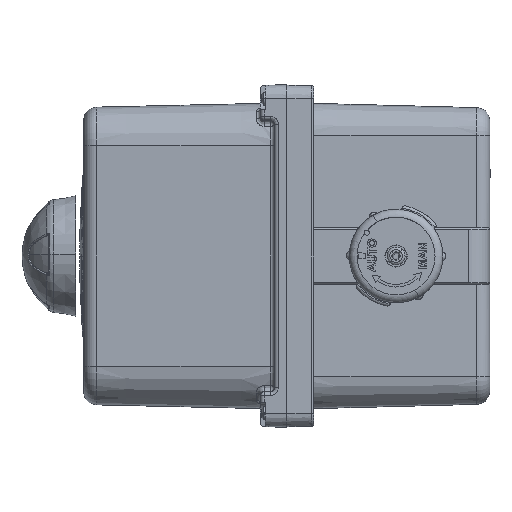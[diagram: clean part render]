
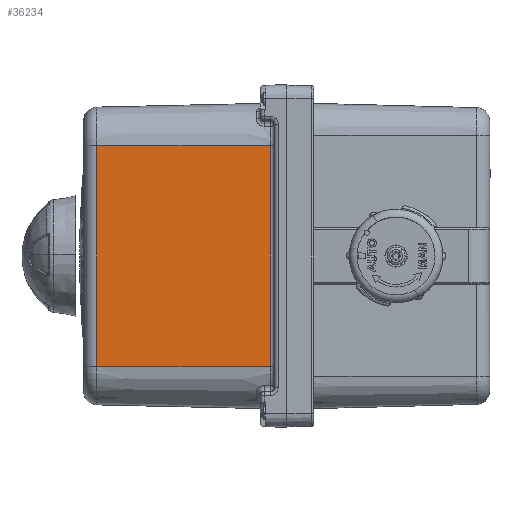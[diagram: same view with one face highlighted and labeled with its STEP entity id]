
A CAD part, left-side view. The second image highlights one B-rep face of the part: STEP entity #36234.
In plain terms, the highlighted planar face has unit normal (-1, 0.023, 0).
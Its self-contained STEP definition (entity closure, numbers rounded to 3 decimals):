
#5148 = CARTESIAN_POINT ( 'NONE',  ( -38.604, 56.592, 157.055 ) ) ;
#6413 = CARTESIAN_POINT ( 'NONE',  ( -38.744, 50.426, 157.055 ) ) ;
#9057 = EDGE_CURVE ( 'NONE', #13628, #29952, #17560, .T. ) ;
#9201 = CARTESIAN_POINT ( 'NONE',  ( -37.13, 121.539, 239.555 ) ) ;
#13628 = VERTEX_POINT ( 'NONE', #9201 ) ;
#17560 = LINE ( 'NONE', #25138, #130940 ) ;
#18841 = ORIENTED_EDGE ( 'NONE', *, *, #88327, .T. ) ;
#25138 = CARTESIAN_POINT ( 'NONE',  ( -38.744, 50.426, 239.555 ) ) ;
#28196 = CARTESIAN_POINT ( 'NONE',  ( -37.13, 121.539, 157.055 ) ) ;
#29952 = VERTEX_POINT ( 'NONE', #83710 ) ;
#30251 = EDGE_LOOP ( 'NONE', ( #18841, #31116, #127197, #36516 ) ) ;
#31116 = ORIENTED_EDGE ( 'NONE', *, *, #75149, .T. ) ;
#36234 = ADVANCED_FACE ( 'NONE', ( #123586 ), #72477, .T. ) ;
#36516 = ORIENTED_EDGE ( 'NONE', *, *, #79257, .T. ) ;
#40128 = VECTOR ( 'NONE', #42611, 1000. ) ;
#42153 = CARTESIAN_POINT ( 'NONE',  ( -38.604, 56.592, 239.555 ) ) ;
#42611 = DIRECTION ( 'NONE',  ( 0., 0., 1. ) ) ;
#43876 = AXIS2_PLACEMENT_3D ( 'NONE', #116553, #50808, #127604 ) ;
#50808 = DIRECTION ( 'NONE',  ( -1., 0.023, 0. ) ) ;
#56701 = VERTEX_POINT ( 'NONE', #5148 ) ;
#67403 = VECTOR ( 'NONE', #127083, 1000. ) ;
#69375 = LINE ( 'NONE', #42153, #40128 ) ;
#72477 = PLANE ( 'NONE',  #43876 ) ;
#75149 = EDGE_CURVE ( 'NONE', #56701, #29952, #69375, .T. ) ;
#79257 = EDGE_CURVE ( 'NONE', #13628, #135687, #96596, .T. ) ;
#83710 = CARTESIAN_POINT ( 'NONE',  ( -38.604, 56.592, 239.555 ) ) ;
#86925 = CARTESIAN_POINT ( 'NONE',  ( -37.13, 121.539, 157.055 ) ) ;
#88327 = EDGE_CURVE ( 'NONE', #135687, #56701, #124125, .T. ) ;
#94942 = VECTOR ( 'NONE', #105326, 1000. ) ;
#96596 = LINE ( 'NONE', #28196, #67403 ) ;
#105326 = DIRECTION ( 'NONE',  ( -0.023, -1., 0. ) ) ;
#116553 = CARTESIAN_POINT ( 'NONE',  ( -38.744, 50.426, 239.555 ) ) ;
#123586 = FACE_OUTER_BOUND ( 'NONE', #30251, .T. ) ;
#124010 = DIRECTION ( 'NONE',  ( -0.023, -1., 0. ) ) ;
#124125 = LINE ( 'NONE', #6413, #94942 ) ;
#127083 = DIRECTION ( 'NONE',  ( 0., 0., -1. ) ) ;
#127197 = ORIENTED_EDGE ( 'NONE', *, *, #9057, .F. ) ;
#127604 = DIRECTION ( 'NONE',  ( 0.023, 1., 0. ) ) ;
#130940 = VECTOR ( 'NONE', #124010, 1000. ) ;
#135687 = VERTEX_POINT ( 'NONE', #86925 ) ;
